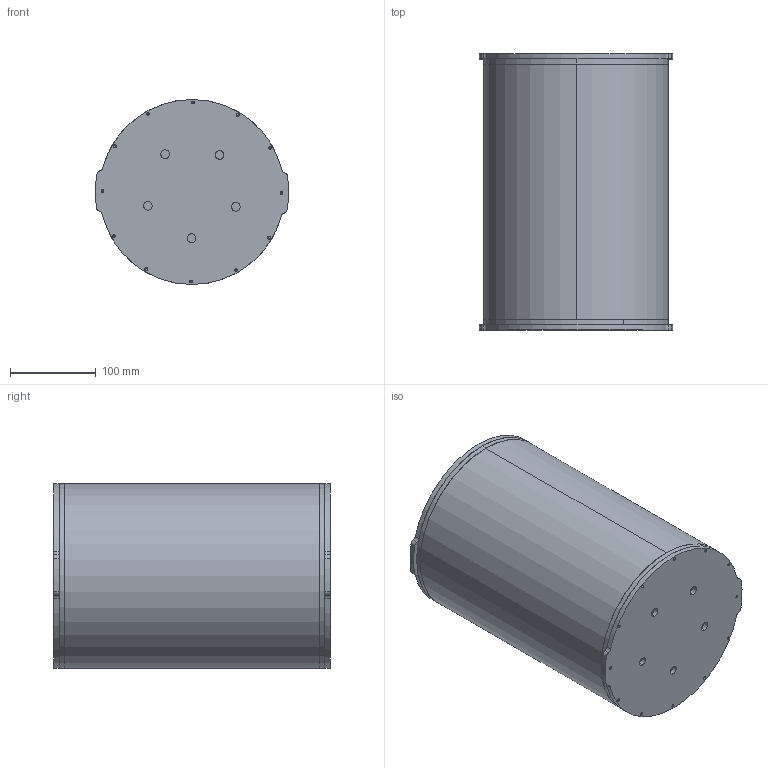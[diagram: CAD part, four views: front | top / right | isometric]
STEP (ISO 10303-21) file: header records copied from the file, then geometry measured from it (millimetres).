
FILE_DESCRIPTION (( 'STEP AP203' ), '1' );
FILE_NAME ('ASSEM-WTE8-R1.STEP', '2017-03-01T17:55:09', ( '' ), ( '' ), 'SwSTEP 2.0', 'SolidWorks 2014', '' );
FILE_SCHEMA (( 'CONFIG_CONTROL_DESIGN' ));
Length unit declared in the file: inch
Products named in the file (1): ASSEM-WTE8-R1
Bounding box: 225.65 x 322.45 x 215.9 mm (x, y, z)
Volume: 2364253.8 mm3; surface area: 715345.1 mm2
Topology: 5 solids, 5 shells, 346 faces, 832 edges, 500 vertices
Faces by surface type: cylinder 180, cone 132, plane 22, torus 12
Entity records: 10343 total; most frequent: DIRECTION 2014, CARTESIAN_POINT 1663, ORIENTED_EDGE 1632, AXIS2_PLACEMENT_3D 851, EDGE_CURVE 816, CIRCLE 504, VERTEX_POINT 500, EDGE_LOOP 478
